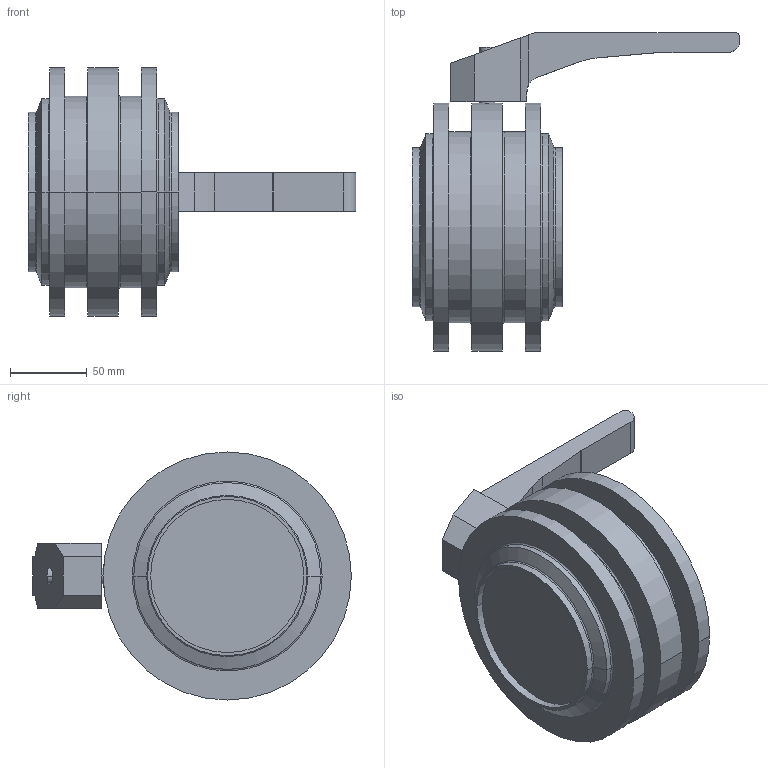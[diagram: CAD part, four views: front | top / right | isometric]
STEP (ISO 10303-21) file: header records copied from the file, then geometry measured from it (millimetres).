
FILE_DESCRIPTION(('OneSpaceDesigner STEP Export'),'2;1');
FILE_NAME('SVS1F-100-H-12S.stp','2007-05-29T11:40:59',(''),(''),'OneSpace Designer STEP processor for AP214 (Solid Model)','OneSpace Modeling 15.00 06-Feb-2007 (C) CoCreate Software GmbH','');
FILE_SCHEMA(('AUTOMOTIVE_DESIGN { 1 0 10303 214 1 1 1 1 }'));
Length unit declared in the file: millimetre
Products named in the file (3): SVS1F-100-H-12S; Handhebel-SV-40-100.1; SVS1F-100-H-12S-vereint
Assembly tree (2 placements, depth 2):
  SVS1F-100-H-12S-vereint
    Handhebel-SV-40-100.1
    SVS1F-100-H-12S
Bounding box: 214 x 208 x 162 mm (x, y, z)
Volume: 1522831.6 mm3; surface area: 138014.8 mm2
Topology: 2 solids, 2 shells, 76 faces, 167 edges, 104 vertices
Faces by surface type: cylinder 31, plane 29, torus 12, cone 4
Entity records: 2296 total; most frequent: CARTESIAN_POINT 687, ORIENTED_EDGE 334, DIRECTION 303, EDGE_CURVE 167, AXIS2_PLACEMENT_3D 113, VERTEX_POINT 104, EDGE_LOOP 85, VECTOR 77
